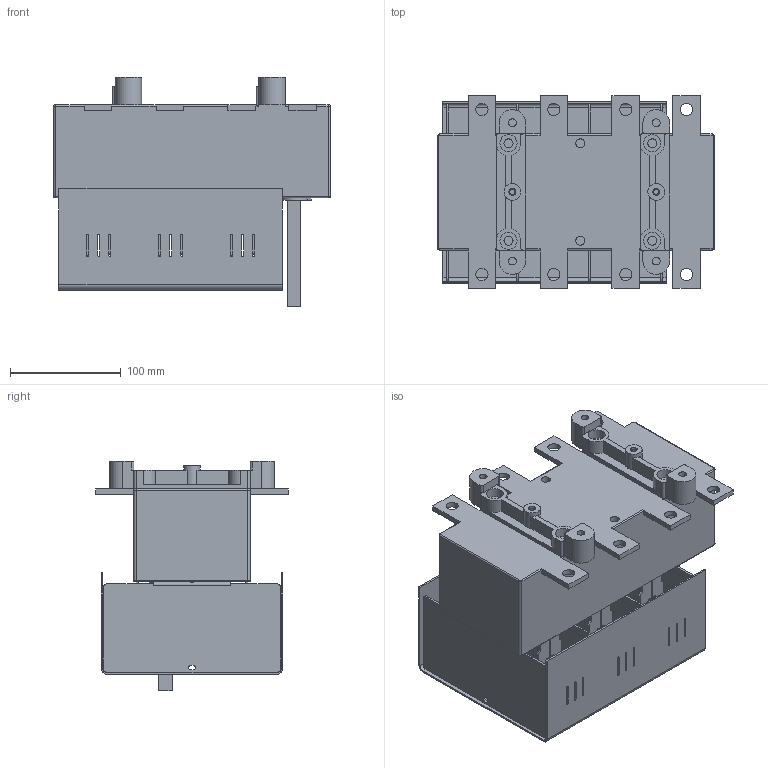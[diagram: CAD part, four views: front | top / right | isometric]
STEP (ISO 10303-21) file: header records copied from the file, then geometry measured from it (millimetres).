
FILE_DESCRIPTION(/* description */ (''),/* implementation_level */ '2;1');
FILE_NAME(/* name */ 'RAB 2 P3 N.stp',/* time_stamp */ '2021-08-19T13:08:53+02:00',/* author */ (''),/* organization */ (''),/* preprocessor_version */ 'ST-DEVELOPER v18.1',/* originating_system */ 'SIEMENS PLM Software NX 1965',/* authorisation */ '');
FILE_SCHEMA (('AUTOMOTIVE_DESIGN { 1 0 10303 214 3 1 1 1 }'));
Length unit declared in the file: millimetre
Products named in the file (1): RAB 2 P3 N
Bounding box: 250 x 174 x 207.3 mm (x, y, z)
Volume: 2497490.8 mm3; surface area: 435108.8 mm2
Topology: 1 solids, 1 shells, 980 faces, 2740 edges, 1797 vertices
Faces by surface type: plane 636, cylinder 336, bspline 8
Full cylindrical faces by diameter (mm): 4.8 x2, 6.2 x2, 7 x4, 8.2 x6, 11 x8, 14 x4, 15 x2, 15.5 x4
Entity records: 31576 total; most frequent: CARTESIAN_POINT 5632, ORIENTED_EDGE 5392, DIRECTION 5334, EDGE_CURVE 2696, LINE 1992, VECTOR 1992, VERTEX_POINT 1782, AXIS2_PLACEMENT_3D 1671
